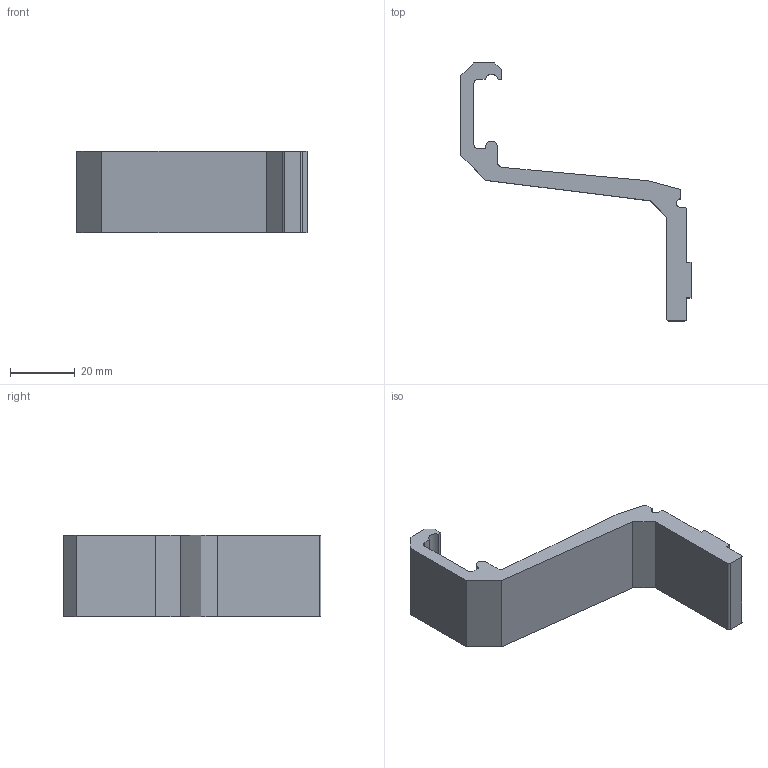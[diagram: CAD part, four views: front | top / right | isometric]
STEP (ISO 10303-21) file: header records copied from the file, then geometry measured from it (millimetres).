
FILE_DESCRIPTION (( 'STEP AP214' ), '1' );
FILE_NAME ('FGRB 65X42.step', '2017-04-05T07:39:06', ( '' ), ( '' ), 'SwSTEP 2.0', 'SolidWorks 2015', '' );
FILE_SCHEMA (( 'AUTOMOTIVE_DESIGN' ));
Length unit declared in the file: millimetre
Products named in the file (1): FGRB 65X42
Bounding box: 71 x 79.5 x 25 mm (x, y, z)
Volume: 19115.2 mm3; surface area: 8981.4 mm2
Topology: 1 solids, 1 shells, 39 faces, 111 edges, 74 vertices
Faces by surface type: plane 27, cylinder 12
Entity records: 1303 total; most frequent: CARTESIAN_POINT 225, ORIENTED_EDGE 222, DIRECTION 215, EDGE_CURVE 111, VECTOR 87, LINE 87, VERTEX_POINT 74, AXIS2_PLACEMENT_3D 64
